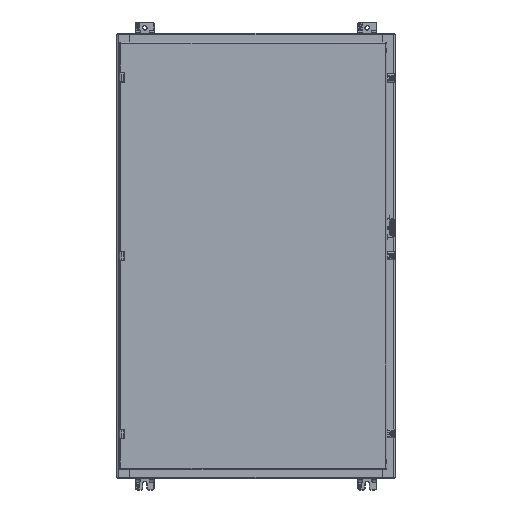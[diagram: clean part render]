
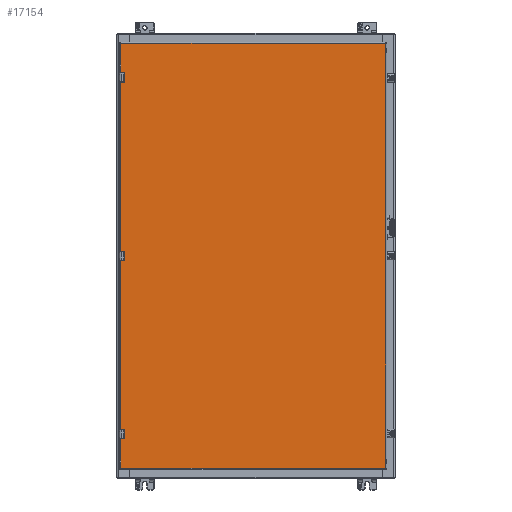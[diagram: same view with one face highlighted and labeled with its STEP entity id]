
A CAD part, top view. The second image highlights one B-rep face of the part: STEP entity #17154.
In plain terms, the highlighted planar face has unit normal (0, 0, 1) as drawn and (0, 1, 0) by its records, which use the part's own axes.
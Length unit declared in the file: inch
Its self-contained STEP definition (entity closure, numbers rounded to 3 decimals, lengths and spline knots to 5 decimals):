
#12744=DIRECTION('',(0.,0.,1.));
#12745=VECTOR('',#12744,28.566);
#12746=CARTESIAN_POINT('',(-22.91438,0.,0.117));
#12747=LINE('',#12746,#12745);
#12826=DIRECTION('',(0.,0.,-1.));
#12827=VECTOR('',#12826,0.3629);
#12828=CARTESIAN_POINT('',(19.59513,0.,28.683));
#12829=LINE('',#12828,#12827);
#12833=DIRECTION('',(-1.,0.,0.));
#12834=VECTOR('',#12833,0.63);
#12835=CARTESIAN_POINT('',(19.56513,0.,28.2901));
#12836=LINE('',#12835,#12834);
#12840=DIRECTION('',(0.,0.,-1.));
#12841=VECTOR('',#12840,0.3629);
#12842=CARTESIAN_POINT('',(18.90513,0.,28.683));
#12843=LINE('',#12842,#12841);
#12847=DIRECTION('',(0.,0.,-1.));
#12848=VECTOR('',#12847,0.3629);
#12849=CARTESIAN_POINT('',(0.345,0.,28.683));
#12850=LINE('',#12849,#12848);
#12854=DIRECTION('',(-1.,0.,0.));
#12855=VECTOR('',#12854,0.63);
#12856=CARTESIAN_POINT('',(0.315,0.,28.2901));
#12857=LINE('',#12856,#12855);
#12861=DIRECTION('',(0.,0.,-1.));
#12862=VECTOR('',#12861,0.3629);
#12863=CARTESIAN_POINT('',(-0.345,0.,28.683));
#12864=LINE('',#12863,#12862);
#12868=DIRECTION('',(0.,0.,-1.));
#12869=VECTOR('',#12868,0.3629);
#12870=CARTESIAN_POINT('',(-18.90513,0.,28.683));
#12871=LINE('',#12870,#12869);
#12875=DIRECTION('',(-1.,0.,0.));
#12876=VECTOR('',#12875,0.63);
#12877=CARTESIAN_POINT('',(-18.93513,0.,28.2901));
#12878=LINE('',#12877,#12876);
#12882=DIRECTION('',(0.,0.,-1.));
#12883=VECTOR('',#12882,0.3629);
#12884=CARTESIAN_POINT('',(-19.59513,0.,28.683));
#12885=LINE('',#12884,#12883);
#12889=DIRECTION('',(0.,0.,1.));
#12890=VECTOR('',#12889,28.566);
#12891=CARTESIAN_POINT('',(22.91438,0.,0.117));
#12892=LINE('',#12891,#12890);
#13064=DIRECTION('',(-1.,0.,0.));
#13065=VECTOR('',#13064,45.82875);
#13066=CARTESIAN_POINT('',(22.91438,0.,0.117));
#13067=LINE('',#13066,#13065);
#14580=DIRECTION('',(-1.,0.,0.));
#14581=VECTOR('',#14580,18.56013);
#14582=CARTESIAN_POINT('',(18.90513,0.,28.683));
#14583=LINE('',#14582,#14581);
#14625=DIRECTION('',(-1.,0.,0.));
#14626=VECTOR('',#14625,18.56013);
#14627=CARTESIAN_POINT('',(-0.345,0.,28.683));
#14628=LINE('',#14627,#14626);
#14668=DIRECTION('',(-1.,0.,0.));
#14669=VECTOR('',#14668,3.31925);
#14670=CARTESIAN_POINT('',(-19.59513,0.,28.683));
#14671=LINE('',#14670,#14669);
#14705=DIRECTION('',(-1.,0.,0.));
#14706=VECTOR('',#14705,3.31925);
#14707=CARTESIAN_POINT('',(22.91438,0.,28.683));
#14708=LINE('',#14707,#14706);
#14726=CARTESIAN_POINT('',(18.93513,0.,28.3201));
#14727=DIRECTION('',(0.,-1.,0.));
#14728=DIRECTION('',(-1.,0.,0.));
#14729=AXIS2_PLACEMENT_3D('',#14726,#14727,#14728);
#14756=CARTESIAN_POINT('',(19.56513,0.,28.3201));
#14757=DIRECTION('',(0.,-1.,0.));
#14758=DIRECTION('',(0.,0.,-1.));
#14759=AXIS2_PLACEMENT_3D('',#14756,#14757,#14758);
#15304=CARTESIAN_POINT('',(-0.315,0.,28.3201));
#15305=DIRECTION('',(0.,-1.,0.));
#15306=DIRECTION('',(-1.,0.,0.));
#15307=AXIS2_PLACEMENT_3D('',#15304,#15305,#15306);
#15334=CARTESIAN_POINT('',(0.315,0.,28.3201));
#15335=DIRECTION('',(0.,-1.,0.));
#15336=DIRECTION('',(0.,0.,-1.));
#15337=AXIS2_PLACEMENT_3D('',#15334,#15335,#15336);
#15424=CARTESIAN_POINT('',(-19.56513,0.,28.3201));
#15425=DIRECTION('',(0.,-1.,0.));
#15426=DIRECTION('',(-1.,0.,0.));
#15427=AXIS2_PLACEMENT_3D('',#15424,#15425,#15426);
#15454=CARTESIAN_POINT('',(-18.93513,0.,28.3201));
#15455=DIRECTION('',(0.,-1.,0.));
#15456=DIRECTION('',(0.,0.,-1.));
#15457=AXIS2_PLACEMENT_3D('',#15454,#15455,#15456);
#16099=CARTESIAN_POINT('',(22.91438,0.,0.117));
#16100=CARTESIAN_POINT('',(-22.91438,0.,0.117));
#16101=VERTEX_POINT('',#16099);
#16102=VERTEX_POINT('',#16100);
#16377=CARTESIAN_POINT('',(-22.91438,0.,28.683));
#16378=VERTEX_POINT('',#16377);
#16387=CARTESIAN_POINT('',(22.91438,0.,28.683));
#16389=VERTEX_POINT('',#16387);
#16516=CARTESIAN_POINT('',(-18.90513,0.,28.683));
#16518=VERTEX_POINT('',#16516);
#16520=CARTESIAN_POINT('',(-19.59513,0.,28.683));
#16522=VERTEX_POINT('',#16520);
#16532=CARTESIAN_POINT('',(19.59513,0.,28.683));
#16534=VERTEX_POINT('',#16532);
#16536=CARTESIAN_POINT('',(18.90513,0.,28.683));
#16538=VERTEX_POINT('',#16536);
#16548=CARTESIAN_POINT('',(0.345,0.,28.683));
#16550=VERTEX_POINT('',#16548);
#16552=CARTESIAN_POINT('',(-0.345,0.,28.683));
#16554=VERTEX_POINT('',#16552);
#16563=CARTESIAN_POINT('',(-19.59513,0.,28.3201));
#16565=VERTEX_POINT('',#16563);
#16567=CARTESIAN_POINT('',(-19.56513,0.,28.2901));
#16569=VERTEX_POINT('',#16567);
#16587=CARTESIAN_POINT('',(-18.93513,0.,28.2901));
#16589=VERTEX_POINT('',#16587);
#16591=CARTESIAN_POINT('',(-18.90513,0.,28.3201));
#16593=VERTEX_POINT('',#16591);
#16595=CARTESIAN_POINT('',(18.90513,0.,28.3201));
#16597=VERTEX_POINT('',#16595);
#16599=CARTESIAN_POINT('',(18.93513,0.,28.2901));
#16601=VERTEX_POINT('',#16599);
#16619=CARTESIAN_POINT('',(19.56513,0.,28.2901));
#16621=VERTEX_POINT('',#16619);
#16623=CARTESIAN_POINT('',(19.59513,0.,28.3201));
#16625=VERTEX_POINT('',#16623);
#16627=CARTESIAN_POINT('',(-0.345,0.,28.3201));
#16629=VERTEX_POINT('',#16627);
#16631=CARTESIAN_POINT('',(-0.315,0.,28.2901));
#16633=VERTEX_POINT('',#16631);
#16651=CARTESIAN_POINT('',(0.315,0.,28.2901));
#16653=VERTEX_POINT('',#16651);
#16655=CARTESIAN_POINT('',(0.345,0.,28.3201));
#16657=VERTEX_POINT('',#16655);
#17104=CARTESIAN_POINT('',(23.03138,0.,0.));
#17105=DIRECTION('',(0.,1.,0.));
#17106=DIRECTION('',(-1.,0.,0.));
#17107=AXIS2_PLACEMENT_3D('',#17104,#17105,#17106);
#17108=PLANE('',#17107);
#17110=ORIENTED_EDGE('',*,*,#17109,.T.);
#17112=ORIENTED_EDGE('',*,*,#17111,.T.);
#17114=ORIENTED_EDGE('',*,*,#17113,.T.);
#17116=ORIENTED_EDGE('',*,*,#17115,.F.);
#17118=ORIENTED_EDGE('',*,*,#17117,.T.);
#17120=ORIENTED_EDGE('',*,*,#17119,.F.);
#17122=ORIENTED_EDGE('',*,*,#17121,.F.);
#17124=ORIENTED_EDGE('',*,*,#17123,.T.);
#17126=ORIENTED_EDGE('',*,*,#17125,.T.);
#17128=ORIENTED_EDGE('',*,*,#17127,.F.);
#17130=ORIENTED_EDGE('',*,*,#17129,.T.);
#17132=ORIENTED_EDGE('',*,*,#17131,.F.);
#17134=ORIENTED_EDGE('',*,*,#17133,.F.);
#17136=ORIENTED_EDGE('',*,*,#17135,.T.);
#17138=ORIENTED_EDGE('',*,*,#17137,.T.);
#17140=ORIENTED_EDGE('',*,*,#17139,.F.);
#17142=ORIENTED_EDGE('',*,*,#17141,.T.);
#17144=ORIENTED_EDGE('',*,*,#17143,.F.);
#17146=ORIENTED_EDGE('',*,*,#17145,.F.);
#17148=ORIENTED_EDGE('',*,*,#17147,.T.);
#17149=ORIENTED_EDGE('',*,*,#17094,.F.);
#17151=ORIENTED_EDGE('',*,*,#17150,.F.);
#17152=EDGE_LOOP('',(#17110,#17112,#17114,#17116,#17118,#17120,#17122,#17124,
#17126,#17128,#17130,#17132,#17134,#17136,#17138,#17140,#17142,#17144,#17146,
#17148,#17149,#17151));
#17153=FACE_OUTER_BOUND('',#17152,.F.);
#14730=CIRCLE('',#14729,0.03);
#14760=CIRCLE('',#14759,0.03);
#15308=CIRCLE('',#15307,0.03);
#15338=CIRCLE('',#15337,0.03);
#15428=CIRCLE('',#15427,0.03);
#15458=CIRCLE('',#15457,0.03);
#17094=EDGE_CURVE('',#16102,#16378,#12747,.T.);
#17109=EDGE_CURVE('',#16101,#16389,#12892,.T.);
#17111=EDGE_CURVE('',#16389,#16534,#14708,.T.);
#17113=EDGE_CURVE('',#16534,#16625,#12829,.T.);
#17115=EDGE_CURVE('',#16621,#16625,#14760,.T.);
#17117=EDGE_CURVE('',#16621,#16601,#12836,.T.);
#17119=EDGE_CURVE('',#16597,#16601,#14730,.T.);
#17121=EDGE_CURVE('',#16538,#16597,#12843,.T.);
#17123=EDGE_CURVE('',#16538,#16550,#14583,.T.);
#17125=EDGE_CURVE('',#16550,#16657,#12850,.T.);
#17127=EDGE_CURVE('',#16653,#16657,#15338,.T.);
#17129=EDGE_CURVE('',#16653,#16633,#12857,.T.);
#17131=EDGE_CURVE('',#16629,#16633,#15308,.T.);
#17133=EDGE_CURVE('',#16554,#16629,#12864,.T.);
#17135=EDGE_CURVE('',#16554,#16518,#14628,.T.);
#17137=EDGE_CURVE('',#16518,#16593,#12871,.T.);
#17139=EDGE_CURVE('',#16589,#16593,#15458,.T.);
#17141=EDGE_CURVE('',#16589,#16569,#12878,.T.);
#17143=EDGE_CURVE('',#16565,#16569,#15428,.T.);
#17145=EDGE_CURVE('',#16522,#16565,#12885,.T.);
#17147=EDGE_CURVE('',#16522,#16378,#14671,.T.);
#17150=EDGE_CURVE('',#16101,#16102,#13067,.T.);
#17154=ADVANCED_FACE('',(#17153),#17108,.T.);
